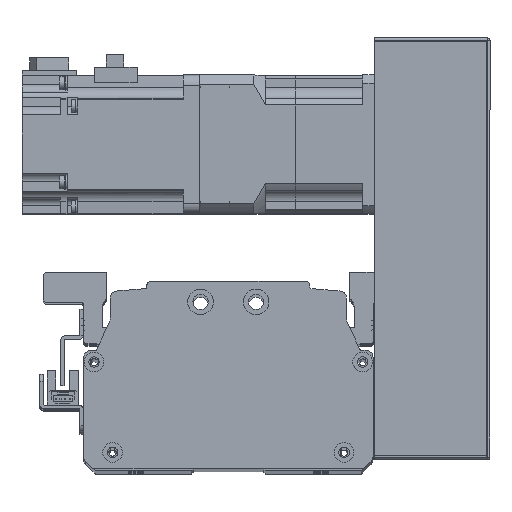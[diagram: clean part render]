
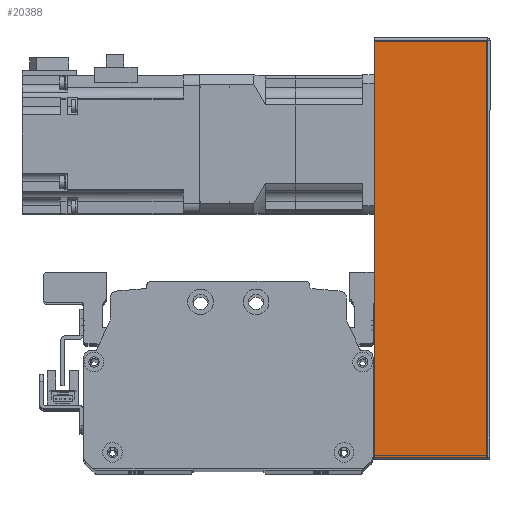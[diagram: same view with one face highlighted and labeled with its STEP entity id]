
A CAD part, top view. The second image highlights one B-rep face of the part: STEP entity #20388.
In plain terms, the highlighted planar face has unit normal (0, 0, 1) as drawn and (0, -1, 0) by its records, which use the part's own axes.
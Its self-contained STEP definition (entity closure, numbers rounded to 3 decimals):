
#563=PLANE('',#22359);
#1778=LINE('',#33216,#3402);
#1792=LINE('',#33268,#3416);
#1794=LINE('',#33276,#3418);
#1795=LINE('',#33278,#3419);
#3402=VECTOR('',#26977,10.);
#3416=VECTOR('',#27037,10.);
#3418=VECTOR('',#27051,10.);
#3419=VECTOR('',#27054,10.);
#5760=FACE_OUTER_BOUND('',#7192,.T.);
#7192=EDGE_LOOP('',(#16960,#16961,#16962,#16963));
#10036=VERTEX_POINT('',#33213);
#10037=VERTEX_POINT('',#33215);
#10051=VERTEX_POINT('',#33263);
#10052=VERTEX_POINT('',#33266);
#12468=EDGE_CURVE('',#10037,#10036,#1778,.T.);
#12496=EDGE_CURVE('',#10051,#10052,#1792,.T.);
#12500=EDGE_CURVE('',#10052,#10037,#1794,.T.);
#12501=EDGE_CURVE('',#10036,#10051,#1795,.T.);
#16960=ORIENTED_EDGE('',*,*,#12496,.T.);
#16961=ORIENTED_EDGE('',*,*,#12500,.T.);
#16962=ORIENTED_EDGE('',*,*,#12468,.T.);
#16963=ORIENTED_EDGE('',*,*,#12501,.T.);
#20388=ADVANCED_FACE('',(#5760),#563,.F.);
#22359=AXIS2_PLACEMENT_3D('',#33277,#27052,#27053);
#26977=DIRECTION('',(1.,0.,0.));
#27037=DIRECTION('',(-1.,0.,0.));
#27051=DIRECTION('',(0.,0.,-1.));
#27052=DIRECTION('center_axis',(0.,1.,0.));
#27053=DIRECTION('ref_axis',(1.,0.,0.));
#27054=DIRECTION('',(0.,0.,1.));
#33213=CARTESIAN_POINT('',(90.,-38.,-25.));
#33215=CARTESIAN_POINT('',(-90.,-38.,-25.));
#33216=CARTESIAN_POINT('',(91.,-38.,-25.));
#33263=CARTESIAN_POINT('',(90.,-38.,24.));
#33266=CARTESIAN_POINT('',(-90.,-38.,24.));
#33268=CARTESIAN_POINT('',(-45.5,-38.,24.));
#33276=CARTESIAN_POINT('',(-90.,-38.,0.));
#33277=CARTESIAN_POINT('Origin',(-91.,-38.,0.));
#33278=CARTESIAN_POINT('',(90.,-38.,0.));
